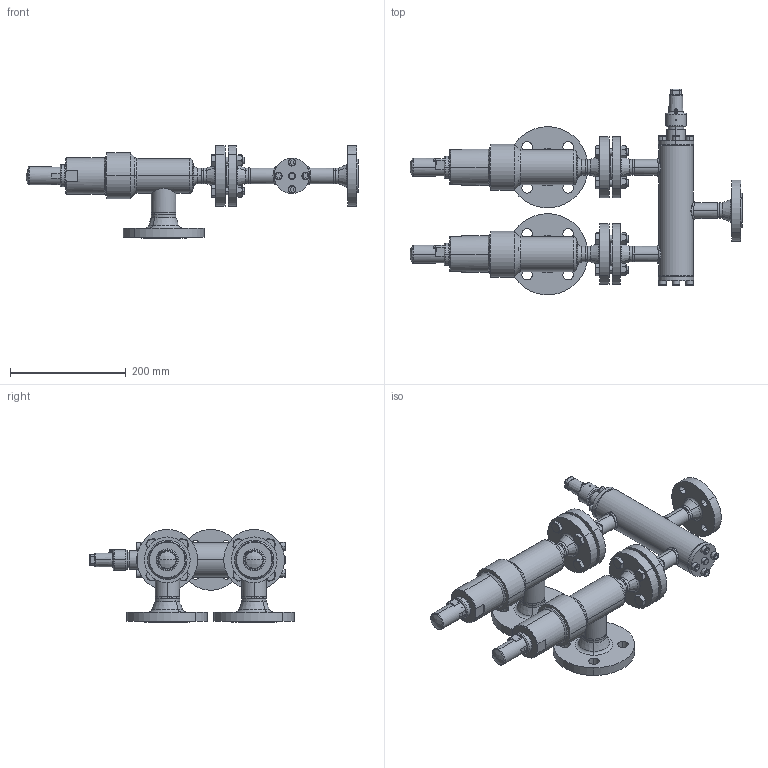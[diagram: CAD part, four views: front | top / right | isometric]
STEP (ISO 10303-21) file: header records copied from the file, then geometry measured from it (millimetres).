
FILE_DESCRIPTION (( 'STEP AP214' ), '1' );
FILE_NAME ('WVR-SVUB_1C8FL_DN20_DIN-FL_seitlich.STEP', '2010-09-08T11:27:46', ( 'Eckhard Grams' ), ( 'AWP Kälte Klima Armaturen GmbH' ), 'SwSTEP 2.0', 'SolidWorks 2002296', '' );
FILE_SCHEMA (( 'AUTOMOTIVE_DESIGN' ));
Length unit declared in the file: millimetre
Products named in the file (31): WVR-SVUB_1C8FL_DN20_DIN-FL_seitlich; SVUB 45720D11-DN20(32)_DIN; Gehkpl 45720E11-5030001; Geh 45700E11-5034004_DN20; Rohrstutzen-A 45700E11-5036004_DN20(32)_Standard; Flansch-DIN2635-Nut_PS40_DIN-Flansch-DN032_PS40-Nut; bead Geh,kpl 45720E11-1_Standard; bead Geh,kpl 45720E11-2_Standard; Haube 45700E11-5260003_DN20-25; Flachdichtg-Alu-DN20-25; Kappe SVA-SVU-ORV_DN10-40 (M27x1,5)_Standard; WVR24020D11-DN020_DIN-FL-N-F_PS40_Standard; Geh,kpl24020E11-DN20_DIN-FL-N-F_PS40_Standard; Flansch-DIN2635-Nut_PS40_DIN-Flansch-DN020_PS40-Nut; Flansch-DIN2635-Feder_PS40_DIN-Flansch-DN020_PS40-Feder; Geh,kpl24000E11_DN20_R1_PS40_Standard; Rohrstutzen-24000E11-DN20_R1_Standard; Gehäuse24000E11-DN20_R1_PS40_Standard; Schw-24000E11-DN20_Standard; bead24020-11-3_Standard; bead24020-11-2_Standard; bead24020-11-1_Standard; AVR26300K10_Deck+Schr-DN10-20_Standard; Deckel26300K10-DN10-20_Standard; Zylinderschraube-DIN912_M 8x  16; Kappe 96300E10_DN6-20 (M27x2)_Standard; WVB-R23000K10_Deck+Schr-DN10-20_Standard; Deckel24000E10-DN10-20_Standard; Zylinderschraube-DIN912_M 8x  25; Sechskantschraube-DIN933_M12x 50; Sechskantmutter-DIN934_M12
Assembly tree (57 placements, depth 5):
  WVR-SVUB_1C8FL_DN20_DIN-FL_seitlich
    Sechskantschraube-DIN933_M12x 50  x8
    Sechskantmutter-DIN934_M12  x8
    WVR24020D11-DN020_DIN-FL-N-F_PS40_Standard
      AVR26300K10_Deck+Schr-DN10-20_Standard
        Zylinderschraube-DIN912_M 8x  16  x4
        Deckel26300K10-DN10-20_Standard
      Kappe 96300E10_DN6-20 (M27x2)_Standard
      WVB-R23000K10_Deck+Schr-DN10-20_Standard
        Zylinderschraube-DIN912_M 8x  25  x4
        Deckel24000E10-DN10-20_Standard
      Geh,kpl24020E11-DN20_DIN-FL-N-F_PS40_Standard
        Geh,kpl24000E11_DN20_R1_PS40_Standard
          Gehäuse24000E11-DN20_R1_PS40_Standard
          Schw-24000E11-DN20_Standard  x3
          Rohrstutzen-24000E11-DN20_R1_Standard  x3
        Flansch-DIN2635-Nut_PS40_DIN-Flansch-DN020_PS40-Nut
        bead24020-11-3_Standard
        bead24020-11-1_Standard
        Flansch-DIN2635-Feder_PS40_DIN-Flansch-DN020_PS40-Feder  x2
        bead24020-11-2_Standard
    SVUB 45720D11-DN20(32)_DIN  x2
      Kappe SVA-SVU-ORV_DN10-40 (M27x1,5)_Standard
      Gehkpl 45720E11-5030001
        Flansch-DIN2635-Nut_PS40_DIN-Flansch-DN020_PS40-Nut
        Rohrstutzen-A 45700E11-5036004_DN20(32)_Standard
        Flansch-DIN2635-Nut_PS40_DIN-Flansch-DN032_PS40-Nut
        bead Geh,kpl 45720E11-1_Standard
        Geh 45700E11-5034004_DN20
        bead Geh,kpl 45720E11-2_Standard
      Flachdichtg-Alu-DN20-25
      Haube 45700E11-5260003_DN20-25
Bounding box: 573 x 354.23 x 160.3 mm (x, y, z)
Volume: 2536993.7 mm3; surface area: 678535.4 mm2
Topology: 58 solids, 58 shells, 1356 faces, 3161 edges, 1971 vertices
Faces by surface type: cylinder 500, plane 378, cone 317, torus 99, bspline 54, sphere 8
Entity records: 42659 total; most frequent: CARTESIAN_POINT 26116, DIRECTION 3033, ORIENTED_EDGE 2850, EDGE_CURVE 1425, AXIS2_PLACEMENT_3D 1286, VERTEX_POINT 890, EDGE_LOOP 715, CIRCLE 650
